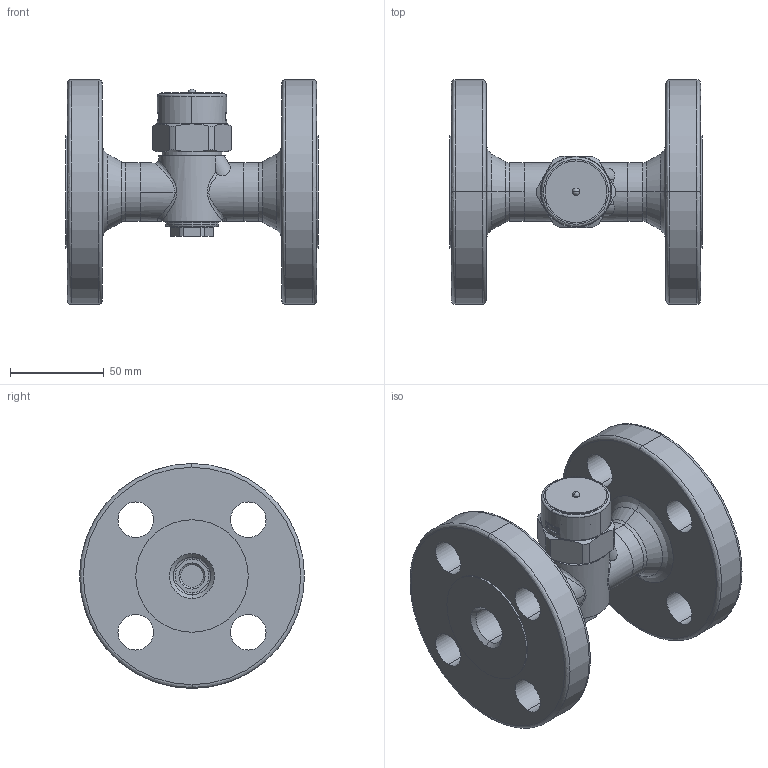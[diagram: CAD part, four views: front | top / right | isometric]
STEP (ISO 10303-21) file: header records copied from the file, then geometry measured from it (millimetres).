
FILE_DESCRIPTION( (''), '2;1');
FILE_NAME ('PC1276.13744.TSD-42F 20A JIS30K_29620.stp','2023-07-25T10:02:42',(''),(''),'spGate 19.8.4 (****-****-****-****)','','');
FILE_SCHEMA (('AUTOMOTIVE_DESIGN'));
Length unit declared in the file: millimetre
Products named in the file (10): Assembly; TSD-42F strainer cap; TSD-42F 銘板鋲; TSD-42F gasket; TSD-42F 20A  本体 3D; TSD-42F 銘板　3D; TSD-42F 保温カバー　3D; TSD-42F キャップA 3D; TSD-42F 20A 30K Flange 3D; TSD-42F 20A 30K Flange 3D_mr
Assembly tree (9 placements, depth 2):
  Assembly
    TSD-42F strainer cap
    TSD-42F 銘板鋲
    TSD-42F gasket
    TSD-42F 20A  本体 3D
    TSD-42F 銘板　3D
    TSD-42F 保温カバー　3D
    TSD-42F キャップA 3D
    TSD-42F 20A 30K Flange 3D
    TSD-42F 20A 30K Flange 3D_mr
Bounding box: 135 x 120 x 120 mm (x, y, z)
Volume: 473168.1 mm3; surface area: 99213.3 mm2
Topology: 9 solids, 9 shells, 310 faces, 702 edges, 417 vertices
Faces by surface type: cylinder 132, bspline 119, plane 57, sphere 2
Entity records: 17258 total; most frequent: CARTESIAN_POINT 5257, ORIENTED_EDGE 1360, DIRECTION 1166, COLOUR_RGB 999, PRESENTATION_STYLE_ASSIGNMENT 999, STYLED_ITEM 999, EDGE_CURVE 680, DRAUGHTING_PRE_DEFINED_CURVE_FONT 680
